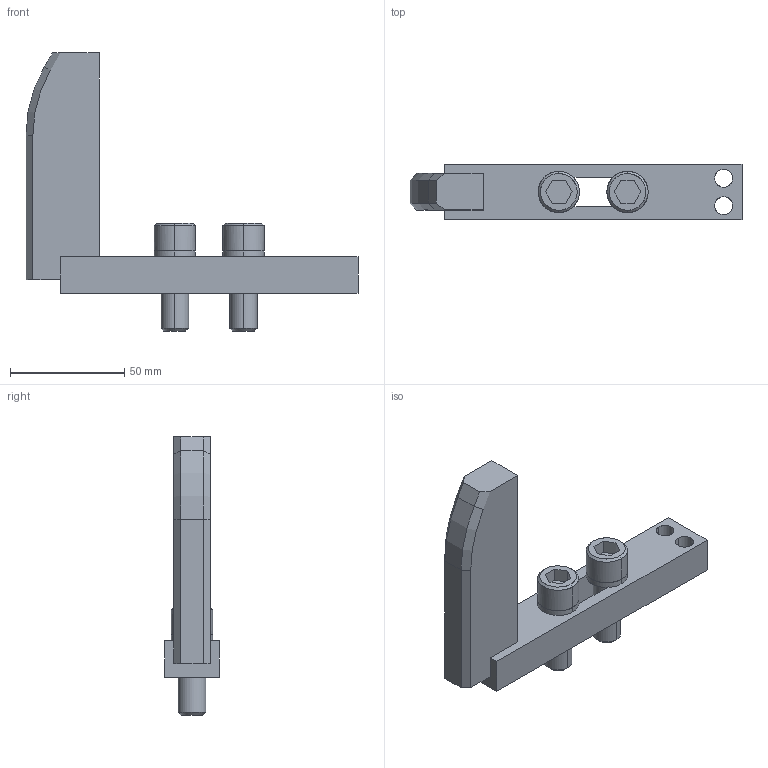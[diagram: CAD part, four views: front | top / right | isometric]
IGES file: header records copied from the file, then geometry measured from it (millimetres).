
Global section: file name: E:\UnigraphicsGraphicData\MISUMI_PRESS-PARTS\IGES\3d_ngnx-105-20-a130-b50-m12_01564_r00.igs; native system: NX V5.0; preprocessor: UGS NX IGES V5.0; author: MISUMI; date: 20110105.162102; units: millimetre
Bounding box: 145 x 24 x 121.5 mm (x, y, z)
Surface area: 29232.8 mm2 (no closed solid volume)
Topology: 0 solids, 0 shells, 100 faces, 630 edges, 630 vertices
Faces by surface type: bspline 100
